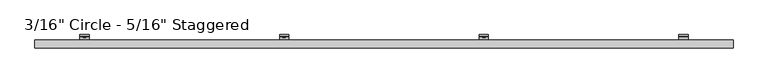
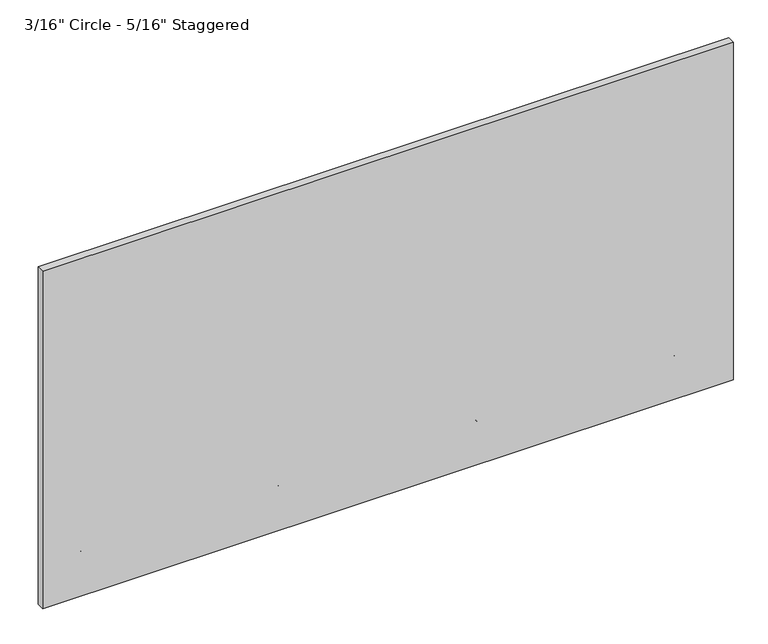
"""IFC4 building model written with IfcOpenShell, lengths in millimetres: plate geometry."""

from ifc_helpers import new_model, si_unit, point, frame, frame_2d, origin, place, context, project, spatial, polyline, circle_curve, trimmed, segment, composite_curve, outline, extrude, source, transform, mapped, element, save
from ifc_brep_helpers import plane_surface, cylinder_surface, revolved_surface, advanced_brep


def plate_cb0a7364(model_context):
    return source(origin(), model_context, "Body", "SolidModel", [
        advanced_brep(
        [(1209.675, -47.625, 561.2468868), (1209.675, -51.2819443, 553.5848544), (1209.675, -89.5163624, 526.8128266), (1209.675, -92.9330442, 530.2295084), (1209.675, -54.3526876, 557.2437649), (1209.675, -52.4002, 561.2469577), (1209.675, -52.4002, 595.439572), (1209.675, -47.625, 595.439572), (1247.775, -47.625, 561.2468868), (1247.775, -47.625, 595.439572), (1247.775, -52.4002, 595.439572), (1247.775, -52.4002, 561.2469577), (1247.775, -54.3526876, 557.2437649), (1247.775, -92.9330442, 530.2295084), (1247.775, -89.5163624, 526.8128266), (1247.775, -51.2819443, 553.5848544), (1235.4661889, -52.4002, 581.3943558), (1235.4661889, -52.4002, 575.0443558), (1219.2383287, -52.4002, 575.0443558), (1219.2383287, -52.4002, 581.3943558), (1235.4661889, -47.625, 575.0443558), (1235.4661889, -47.625, 581.3943558), (1219.2383287, -47.625, 581.3943558), (1219.2383287, -47.625, 575.0443558)],
        [
            (0, 1, circle_curve(frame((1209.675, -57.4802202, 561.2468868), z_axis=(-1.0, 0.0, 0.0), x_axis=(0.0, -1.0, 0.0)), 9.8552202)),
            (1, 2),
            (2, 3),
            (3, 4),
            (4, 5, circle_curve(frame((1209.675, -57.4803246, 561.2469577), z_axis=(1.0, 0.0, 0.0), x_axis=(0.0, -1.0, 0.0)), 5.0801246)),
            (5, 6),
            (6, 7),
            (7, 0),
            (8, 9),
            (9, 10),
            (10, 11),
            (11, 12, circle_curve(frame((1247.775, -57.4803246, 561.2469577), z_axis=(-1.0, 0.0, 0.0), x_axis=(0.0, -1.0, 0.0)), 5.0801246)),
            (12, 13),
            (13, 14),
            (14, 15),
            (15, 8, circle_curve(frame((1247.775, -57.4802202, 561.2468868), z_axis=(1.0, 0.0, 0.0), x_axis=(0.0, -1.0, 0.0)), 9.8552202)),
            (4, 12),
            (11, 5),
            (10, 6),
            (16, 17, circle_curve(frame((1235.4661889, -52.4002, 578.2193558), z_axis=(0.0, 1.0, 0.0), x_axis=(0.0, 0.0, -1.0)), 3.175)),
            (17, 18),
            (18, 19, circle_curve(frame((1219.2383287, -52.4002, 578.2193558), z_axis=(0.0, 1.0, 0.0), x_axis=(0.0, 0.0, -1.0)), 3.175)),
            (19, 16),
            (9, 7),
            (8, 0),
            (20, 21, circle_curve(frame((1235.4661889, -47.625, 578.2193558), z_axis=(0.0, -1.0, 0.0), x_axis=(0.0, 0.0, -1.0)), 3.175)),
            (21, 22),
            (22, 23, circle_curve(frame((1219.2383287, -47.625, 578.2193558), z_axis=(0.0, -1.0, 0.0), x_axis=(0.0, 0.0, -1.0)), 3.175)),
            (23, 20),
            (15, 1),
            (20, 17),
            (16, 21),
            (19, 22),
            (18, 23),
            (14, 2),
            (13, 3),
        ],
        [
            plane_surface(frame((1209.675, -67.3354404, 561.2468868), z_axis=(-1.0, 0.0, 0.0), x_axis=(0.0, 0.0, 1.0))),
            plane_surface(frame((1247.775, -67.3354404, 561.2468868), z_axis=(1.0, 0.0, 0.0), x_axis=(0.0, 0.0, -1.0))),
            revolved_surface(polyline([(1247.775, -62.5604492, 561.2469577), (1209.675, -62.5604492, 561.2469577)]), (1247.775, -57.4803246, 561.2469577), (1.0, 0.0, 0.0)),
            plane_surface(frame((1209.675, -52.4002, 561.2469577), z_axis=(0.0, -1.0, 0.0), x_axis=(1.0, 0.0, 0.0))),
            plane_surface(frame((1209.675, -52.4002, 595.439572), z_axis=(0.0, 0.0, 1.0), x_axis=(1.0, 0.0, 0.0))),
            plane_surface(frame((1209.675, -47.625, 595.439572), z_axis=(0.0, 1.0, 6.99569853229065e-12), x_axis=(1.0, 0.0, 0.0))),
            cylinder_surface(frame((1247.775, -57.4802202, 561.2468868), z_axis=(-1.0, 0.0, 0.0), x_axis=(0.0, -1.0, 0.0)), 9.8552202),
            revolved_surface(polyline([(1235.4661889, -52.4002, 575.0443558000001), (1235.4661889, -47.625, 575.0443558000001)]), (1235.4661889, -25.6669948, 578.2193558), (0.0, -1.0, 0.0)),
            plane_surface(frame((1235.4661889, -86.677982, 581.3943558), z_axis=(0.0, 0.0, -1.0), x_axis=(0.0, 1.0, 0.0))),
            revolved_surface(polyline([(1219.2383287, -52.4002, 575.0443558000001), (1219.2383287, -47.625, 575.0443558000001)]), (1219.2383287, -25.6669948, 578.2193558), (0.0, -1.0, 0.0)),
            plane_surface(frame((1219.2383287, -86.677982, 575.0443558), z_axis=(-2.7237733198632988e-11, 0.0, 1.0), x_axis=(0.0, 1.0, 0.0))),
            plane_surface(frame((1209.675, -51.2819443, 553.5848544), z_axis=(0.0, 0.5735764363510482, -0.8191520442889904), x_axis=(1.0, 0.0, 0.0))),
            plane_surface(frame((1209.675, -89.5163624, 526.8128266), z_axis=(0.0, -0.7071067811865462, -0.7071067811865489), x_axis=(1.0, 0.0, 0.0))),
            plane_surface(frame((1209.675, -92.9330442, 530.2295084), z_axis=(0.0, -0.5735764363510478, 0.8191520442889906), x_axis=(1.0, 0.0, 0.0))),
        ],
        [
            (0, [[1, 2, 3, 4, 5, 6, 7, 8]]),
            (1, [[9, 10, 11, 12, 13, 14, 15, 16]]),
            (2, [[-5, 17, -12, 18]]),
            (3, [[-6, -18, -11, 19], [20, 21, 22, 23]]),
            (4, [[-7, -19, -10, 24]]),
            (5, [[-8, -24, -9, 25], [26, 27, 28, 29]]),
            (6, [[-1, -25, -16, 30]]),
            (7, [[31, -20, 32, -26]]),
            (8, [[-32, -23, 33, -27]]),
            (9, [[-33, -22, 34, -28]]),
            (10, [[-31, -29, -34, -21]]),
            (11, [[-2, -30, -15, 35]]),
            (12, [[-3, -35, -14, 36]]),
            (13, [[-4, -36, -13, -17]]),
        ],
    ),
        extrude(outline(polyline([(578.3961989, 404.5570034), (574.0504864, 407.0660017), (574.0504864, 412.0839983), (578.3961989, 414.5929966), (582.7419114, 412.0839983), (582.7419114, 407.0660017), (578.3961989, 404.5570034)])), frame((0.0, -58.7607779, 0.0), z_axis=(0.0, 1.0, 0.0), x_axis=(0.0, 0.0, 1.0)), (0.0, 0.0, 1.0), 11.1357779),
        extrude(outline(composite_curve([segment(trimmed(circle_curve(frame_2d((578.4895059, 409.575)), 6.35), [point((578.4895059, 415.925))], [point((578.4895059, 403.225))], False, "CARTESIAN"), True, "CONTINUOUS"), segment(trimmed(circle_curve(frame_2d((578.4895059, 409.575)), 6.35), [point((578.4895059, 403.225))], [point((578.4895059, 415.925))], False, "CARTESIAN"), True, "CONTINUOUS")], self_intersect=False)), frame((0.0, -57.0817743, 0.0), z_axis=(0.0, 1.0, 0.0), x_axis=(0.0, 0.0, 1.0)), (0.0, 0.0, 1.0), 9.4567743),
        advanced_brep(
        [(390.525, -47.625, 561.2468868), (390.525, -51.2819443, 553.5848544), (390.525, -89.5163624, 526.8128266), (390.525, -92.9330442, 530.2295084), (390.525, -54.3526876, 557.2437649), (390.525, -52.4002, 561.2469577), (390.525, -52.4002, 595.439572), (390.525, -47.625, 595.439572), (428.625, -47.625, 561.2468868), (428.625, -47.625, 595.439572), (428.625, -52.4002, 595.439572), (428.625, -52.4002, 561.2469577), (428.625, -54.3526876, 557.2437649), (428.625, -92.9330442, 530.2295084), (428.625, -89.5163624, 526.8128266), (428.625, -51.2819443, 553.5848544), (416.3161889, -52.4002, 581.3943558), (416.3161889, -52.4002, 575.0443558), (400.0883287, -52.4002, 575.0443558), (400.0883287, -52.4002, 581.3943558), (416.3161889, -47.625, 575.0443558), (416.3161889, -47.625, 581.3943558), (400.0883287, -47.625, 581.3943558), (400.0883287, -47.625, 575.0443558)],
        [
            (0, 1, circle_curve(frame((390.525, -57.4802202, 561.2468868), z_axis=(-1.0, 0.0, 0.0), x_axis=(0.0, -1.0, 0.0)), 9.8552202)),
            (1, 2),
            (2, 3),
            (3, 4),
            (4, 5, circle_curve(frame((390.525, -57.4803246, 561.2469577), z_axis=(1.0, 0.0, 0.0), x_axis=(0.0, -1.0, 0.0)), 5.0801246)),
            (5, 6),
            (6, 7),
            (7, 0),
            (8, 9),
            (9, 10),
            (10, 11),
            (11, 12, circle_curve(frame((428.625, -57.4803246, 561.2469577), z_axis=(-1.0, 0.0, 0.0), x_axis=(0.0, -1.0, 0.0)), 5.0801246)),
            (12, 13),
            (13, 14),
            (14, 15),
            (15, 8, circle_curve(frame((428.625, -57.4802202, 561.2468868), z_axis=(1.0, 0.0, 0.0), x_axis=(0.0, -1.0, 0.0)), 9.8552202)),
            (4, 12),
            (11, 5),
            (10, 6),
            (16, 17, circle_curve(frame((416.3161889, -52.4002, 578.2193558), z_axis=(0.0, 1.0, 0.0), x_axis=(0.0, 0.0, -1.0)), 3.175)),
            (17, 18),
            (18, 19, circle_curve(frame((400.0883287, -52.4002, 578.2193558), z_axis=(0.0, 1.0, 0.0), x_axis=(0.0, 0.0, -1.0)), 3.175)),
            (19, 16),
            (9, 7),
            (8, 0),
            (20, 21, circle_curve(frame((416.3161889, -47.625, 578.2193558), z_axis=(0.0, -1.0, 0.0), x_axis=(0.0, 0.0, -1.0)), 3.175)),
            (21, 22),
            (22, 23, circle_curve(frame((400.0883287, -47.625, 578.2193558), z_axis=(0.0, -1.0, 0.0), x_axis=(0.0, 0.0, -1.0)), 3.175)),
            (23, 20),
            (15, 1),
            (20, 17),
            (16, 21),
            (19, 22),
            (18, 23),
            (14, 2),
            (13, 3),
        ],
        [
            plane_surface(frame((390.525, -67.3354404, 561.2468868), z_axis=(-1.0, 0.0, 0.0), x_axis=(0.0, 0.0, 1.0))),
            plane_surface(frame((428.625, -67.3354404, 561.2468868), z_axis=(1.0, 0.0, 0.0), x_axis=(0.0, 0.0, -1.0))),
            revolved_surface(polyline([(428.625, -62.5604492, 561.2469577), (390.525, -62.5604492, 561.2469577)]), (428.625, -57.4803246, 561.2469577), (1.0, 0.0, 0.0)),
            plane_surface(frame((390.525, -52.4002, 561.2469577), z_axis=(0.0, -1.0, 0.0), x_axis=(1.0, 0.0, 0.0))),
            plane_surface(frame((390.525, -52.4002, 595.439572), z_axis=(0.0, 0.0, 1.0), x_axis=(1.0, 0.0, 0.0))),
            plane_surface(frame((390.525, -47.625, 595.439572), z_axis=(0.0, 1.0, 6.99569853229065e-12), x_axis=(1.0, 0.0, 0.0))),
            cylinder_surface(frame((428.625, -57.4802202, 561.2468868), z_axis=(-1.0, 0.0, 0.0), x_axis=(0.0, -1.0, 0.0)), 9.8552202),
            revolved_surface(polyline([(416.3161889, -52.4002, 575.0443558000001), (416.3161889, -47.625, 575.0443558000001)]), (416.3161889, -25.6669948, 578.2193558), (0.0, -1.0, 0.0)),
            plane_surface(frame((416.3161889, -86.677982, 581.3943558), z_axis=(0.0, 0.0, -1.0), x_axis=(0.0, 1.0, 0.0))),
            revolved_surface(polyline([(400.0883287, -52.4002, 575.0443558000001), (400.0883287, -47.625, 575.0443558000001)]), (400.0883287, -25.6669948, 578.2193558), (0.0, -1.0, 0.0)),
            plane_surface(frame((400.0883287, -86.677982, 575.0443558), z_axis=(-2.7237733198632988e-11, 0.0, 1.0), x_axis=(0.0, 1.0, 0.0))),
            plane_surface(frame((390.525, -51.2819443, 553.5848544), z_axis=(0.0, 0.5735764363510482, -0.8191520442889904), x_axis=(1.0, 0.0, 0.0))),
            plane_surface(frame((390.525, -89.5163624, 526.8128266), z_axis=(0.0, -0.7071067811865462, -0.7071067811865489), x_axis=(1.0, 0.0, 0.0))),
            plane_surface(frame((390.525, -92.9330442, 530.2295084), z_axis=(0.0, -0.5735764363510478, 0.8191520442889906), x_axis=(1.0, 0.0, 0.0))),
        ],
        [
            (0, [[1, 2, 3, 4, 5, 6, 7, 8]]),
            (1, [[9, 10, 11, 12, 13, 14, 15, 16]]),
            (2, [[-5, 17, -12, 18]]),
            (3, [[-6, -18, -11, 19], [20, 21, 22, 23]]),
            (4, [[-7, -19, -10, 24]]),
            (5, [[-8, -24, -9, 25], [26, 27, 28, 29]]),
            (6, [[-1, -25, -16, 30]]),
            (7, [[31, -20, 32, -26]]),
            (8, [[-32, -23, 33, -27]]),
            (9, [[-33, -22, 34, -28]]),
            (10, [[-31, -29, -34, -21]]),
            (11, [[-2, -30, -15, 35]]),
            (12, [[-3, -35, -14, 36]]),
            (13, [[-4, -36, -13, -17]]),
        ],
    ),
        extrude(outline(polyline([(578.3961989, -414.5929966), (574.0504864, -412.0839983), (574.0504864, -407.0660017), (578.3961989, -404.5570034), (582.7419114, -407.0660017), (582.7419114, -412.0839983), (578.3961989, -414.5929966)])), frame((0.0, -58.7607779, 0.0), z_axis=(0.0, 1.0, 0.0), x_axis=(0.0, 0.0, 1.0)), (0.0, 0.0, 1.0), 11.1357779),
        extrude(outline(composite_curve([segment(trimmed(circle_curve(frame_2d((578.4895059, -409.575)), 6.35), [point((578.4895059, -403.225))], [point((578.4895059, -415.925))], False, "CARTESIAN"), True, "CONTINUOUS"), segment(trimmed(circle_curve(frame_2d((578.4895059, -409.575)), 6.35), [point((578.4895059, -415.925))], [point((578.4895059, -403.225))], False, "CARTESIAN"), True, "CONTINUOUS")], self_intersect=False)), frame((0.0, -57.0817743, 0.0), z_axis=(0.0, 1.0, 0.0), x_axis=(0.0, 0.0, 1.0)), (0.0, 0.0, 1.0), 9.4567743),
        advanced_brep(
        [(-428.625, -47.625, 561.2468868), (-428.625, -51.2819443, 553.5848544), (-428.625, -89.5163624, 526.8128266), (-428.625, -92.9330442, 530.2295084), (-428.625, -54.3526876, 557.2437649), (-428.625, -52.4002, 561.2469577), (-428.625, -52.4002, 595.439572), (-428.625, -47.625, 595.439572), (-390.525, -47.625, 561.2468868), (-390.525, -47.625, 595.439572), (-390.525, -52.4002, 595.439572), (-390.525, -52.4002, 561.2469577), (-390.525, -54.3526876, 557.2437649), (-390.525, -92.9330442, 530.2295084), (-390.525, -89.5163624, 526.8128266), (-390.525, -51.2819443, 553.5848544), (-402.8338111, -52.4002, 581.3943558), (-402.8338111, -52.4002, 575.0443558), (-419.0616713, -52.4002, 575.0443558), (-419.0616713, -52.4002, 581.3943558), (-402.8338111, -47.625, 575.0443558), (-402.8338111, -47.625, 581.3943558), (-419.0616713, -47.625, 581.3943558), (-419.0616713, -47.625, 575.0443558)],
        [
            (0, 1, circle_curve(frame((-428.625, -57.4802202, 561.2468868), z_axis=(-1.0, 0.0, 0.0), x_axis=(0.0, -1.0, 0.0)), 9.8552202)),
            (1, 2),
            (2, 3),
            (3, 4),
            (4, 5, circle_curve(frame((-428.625, -57.4803246, 561.2469577), z_axis=(1.0, 0.0, 0.0), x_axis=(0.0, -1.0, 0.0)), 5.0801246)),
            (5, 6),
            (6, 7),
            (7, 0),
            (8, 9),
            (9, 10),
            (10, 11),
            (11, 12, circle_curve(frame((-390.525, -57.4803246, 561.2469577), z_axis=(-1.0, 0.0, 0.0), x_axis=(0.0, -1.0, 0.0)), 5.0801246)),
            (12, 13),
            (13, 14),
            (14, 15),
            (15, 8, circle_curve(frame((-390.525, -57.4802202, 561.2468868), z_axis=(1.0, 0.0, 0.0), x_axis=(0.0, -1.0, 0.0)), 9.8552202)),
            (4, 12),
            (11, 5),
            (10, 6),
            (16, 17, circle_curve(frame((-402.8338111, -52.4002, 578.2193558), z_axis=(0.0, 1.0, 0.0), x_axis=(0.0, 0.0, -1.0)), 3.175)),
            (17, 18),
            (18, 19, circle_curve(frame((-419.0616713, -52.4002, 578.2193558), z_axis=(0.0, 1.0, 0.0), x_axis=(0.0, 0.0, -1.0)), 3.175)),
            (19, 16),
            (9, 7),
            (8, 0),
            (20, 21, circle_curve(frame((-402.8338111, -47.625, 578.2193558), z_axis=(0.0, -1.0, 0.0), x_axis=(0.0, 0.0, -1.0)), 3.175)),
            (21, 22),
            (22, 23, circle_curve(frame((-419.0616713, -47.625, 578.2193558), z_axis=(0.0, -1.0, 0.0), x_axis=(0.0, 0.0, -1.0)), 3.175)),
            (23, 20),
            (15, 1),
            (20, 17),
            (16, 21),
            (19, 22),
            (18, 23),
            (14, 2),
            (13, 3),
        ],
        [
            plane_surface(frame((-428.625, -67.3354404, 561.2468868), z_axis=(-1.0, 0.0, 0.0), x_axis=(0.0, 0.0, 1.0))),
            plane_surface(frame((-390.525, -67.3354404, 561.2468868), z_axis=(1.0, 0.0, 0.0), x_axis=(0.0, 0.0, -1.0))),
            revolved_surface(polyline([(-390.525, -62.5604492, 561.2469577), (-428.625, -62.5604492, 561.2469577)]), (-390.525, -57.4803246, 561.2469577), (1.0, 0.0, 0.0)),
            plane_surface(frame((-428.625, -52.4002, 561.2469577), z_axis=(0.0, -1.0, 0.0), x_axis=(1.0, 0.0, 0.0))),
            plane_surface(frame((-428.625, -52.4002, 595.439572), z_axis=(0.0, 0.0, 1.0), x_axis=(1.0, 0.0, 0.0))),
            plane_surface(frame((-428.625, -47.625, 595.439572), z_axis=(0.0, 1.0, 6.99569853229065e-12), x_axis=(1.0, 0.0, 0.0))),
            cylinder_surface(frame((-390.525, -57.4802202, 561.2468868), z_axis=(-1.0, 0.0, 0.0), x_axis=(0.0, -1.0, 0.0)), 9.8552202),
            revolved_surface(polyline([(-402.8338111, -52.4002, 575.0443558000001), (-402.8338111, -47.625, 575.0443558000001)]), (-402.8338111, -25.6669948, 578.2193558), (0.0, -1.0, 0.0)),
            plane_surface(frame((-402.8338111, -86.677982, 581.3943558), z_axis=(0.0, 0.0, -1.0), x_axis=(0.0, 1.0, 0.0))),
            revolved_surface(polyline([(-419.0616713, -52.4002, 575.0443558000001), (-419.0616713, -47.625, 575.0443558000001)]), (-419.0616713, -25.6669948, 578.2193558), (0.0, -1.0, 0.0)),
            plane_surface(frame((-419.0616713, -86.677982, 575.0443558), z_axis=(-2.7237733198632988e-11, 0.0, 1.0), x_axis=(0.0, 1.0, 0.0))),
            plane_surface(frame((-428.625, -51.2819443, 553.5848544), z_axis=(0.0, 0.5735764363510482, -0.8191520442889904), x_axis=(1.0, 0.0, 0.0))),
            plane_surface(frame((-428.625, -89.5163624, 526.8128266), z_axis=(0.0, -0.7071067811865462, -0.7071067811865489), x_axis=(1.0, 0.0, 0.0))),
            plane_surface(frame((-428.625, -92.9330442, 530.2295084), z_axis=(0.0, -0.5735764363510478, 0.8191520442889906), x_axis=(1.0, 0.0, 0.0))),
        ],
        [
            (0, [[1, 2, 3, 4, 5, 6, 7, 8]]),
            (1, [[9, 10, 11, 12, 13, 14, 15, 16]]),
            (2, [[-5, 17, -12, 18]]),
            (3, [[-6, -18, -11, 19], [20, 21, 22, 23]]),
            (4, [[-7, -19, -10, 24]]),
            (5, [[-8, -24, -9, 25], [26, 27, 28, 29]]),
            (6, [[-1, -25, -16, 30]]),
            (7, [[31, -20, 32, -26]]),
            (8, [[-32, -23, 33, -27]]),
            (9, [[-33, -22, 34, -28]]),
            (10, [[-31, -29, -34, -21]]),
            (11, [[-2, -30, -15, 35]]),
            (12, [[-3, -35, -14, 36]]),
            (13, [[-4, -36, -13, -17]]),
        ],
    ),
        extrude(outline(polyline([(578.3961989, -1233.7429966), (574.0504864, -1231.2339983), (574.0504864, -1226.2160017), (578.3961989, -1223.7070034), (582.7419114, -1226.2160017), (582.7419114, -1231.2339983), (578.3961989, -1233.7429966)])), frame((0.0, -58.7607779, 0.0), z_axis=(0.0, 1.0, 0.0), x_axis=(0.0, 0.0, 1.0)), (0.0, 0.0, 1.0), 11.1357779),
        extrude(outline(composite_curve([segment(trimmed(circle_curve(frame_2d((578.4895059, -1228.725)), 6.35), [point((578.4895059, -1222.375))], [point((578.4895059, -1235.075))], False, "CARTESIAN"), True, "CONTINUOUS"), segment(trimmed(circle_curve(frame_2d((578.4895059, -1228.725)), 6.35), [point((578.4895059, -1235.075))], [point((578.4895059, -1222.375))], False, "CARTESIAN"), True, "CONTINUOUS")], self_intersect=False)), frame((0.0, -57.0817743, 0.0), z_axis=(0.0, 1.0, 0.0), x_axis=(0.0, 0.0, 1.0)), (0.0, 0.0, 1.0), 9.4567743),
        advanced_brep(
        [(-1247.775, -47.625, 561.2468868), (-1247.775, -51.2819443, 553.5848544), (-1247.775, -89.5163624, 526.8128266), (-1247.775, -92.9330442, 530.2295084), (-1247.775, -54.3526876, 557.2437649), (-1247.775, -52.4002, 561.2469577), (-1247.775, -52.4002, 595.439572), (-1247.775, -47.625, 595.439572), (-1209.675, -47.625, 561.2468868), (-1209.675, -47.625, 595.439572), (-1209.675, -52.4002, 595.439572), (-1209.675, -52.4002, 561.2469577), (-1209.675, -54.3526876, 557.2437649), (-1209.675, -92.9330442, 530.2295084), (-1209.675, -89.5163624, 526.8128266), (-1209.675, -51.2819443, 553.5848544), (-1221.9838111, -52.4002, 581.3943558), (-1221.9838111, -52.4002, 575.0443558), (-1238.2116713, -52.4002, 575.0443558), (-1238.2116713, -52.4002, 581.3943558), (-1221.9838111, -47.625, 575.0443558), (-1221.9838111, -47.625, 581.3943558), (-1238.2116713, -47.625, 581.3943558), (-1238.2116713, -47.625, 575.0443558)],
        [
            (0, 1, circle_curve(frame((-1247.775, -57.4802202, 561.2468868), z_axis=(-1.0, 0.0, 0.0), x_axis=(0.0, -1.0, 0.0)), 9.8552202)),
            (1, 2),
            (2, 3),
            (3, 4),
            (4, 5, circle_curve(frame((-1247.775, -57.4803246, 561.2469577), z_axis=(1.0, 0.0, 0.0), x_axis=(0.0, -1.0, 0.0)), 5.0801246)),
            (5, 6),
            (6, 7),
            (7, 0),
            (8, 9),
            (9, 10),
            (10, 11),
            (11, 12, circle_curve(frame((-1209.675, -57.4803246, 561.2469577), z_axis=(-1.0, 0.0, 0.0), x_axis=(0.0, -1.0, 0.0)), 5.0801246)),
            (12, 13),
            (13, 14),
            (14, 15),
            (15, 8, circle_curve(frame((-1209.675, -57.4802202, 561.2468868), z_axis=(1.0, 0.0, 0.0), x_axis=(0.0, -1.0, 0.0)), 9.8552202)),
            (4, 12),
            (11, 5),
            (10, 6),
            (16, 17, circle_curve(frame((-1221.9838111, -52.4002, 578.2193558), z_axis=(0.0, 1.0, 0.0), x_axis=(0.0, 0.0, -1.0)), 3.175)),
            (17, 18),
            (18, 19, circle_curve(frame((-1238.2116713, -52.4002, 578.2193558), z_axis=(0.0, 1.0, 0.0), x_axis=(0.0, 0.0, -1.0)), 3.175)),
            (19, 16),
            (9, 7),
            (8, 0),
            (20, 21, circle_curve(frame((-1221.9838111, -47.625, 578.2193558), z_axis=(0.0, -1.0, 0.0), x_axis=(0.0, 0.0, -1.0)), 3.175)),
            (21, 22),
            (22, 23, circle_curve(frame((-1238.2116713, -47.625, 578.2193558), z_axis=(0.0, -1.0, 0.0), x_axis=(0.0, 0.0, -1.0)), 3.175)),
            (23, 20),
            (15, 1),
            (20, 17),
            (16, 21),
            (19, 22),
            (18, 23),
            (14, 2),
            (13, 3),
        ],
        [
            plane_surface(frame((-1247.775, -67.3354404, 561.2468868), z_axis=(-1.0, 0.0, 0.0), x_axis=(0.0, 0.0, 1.0))),
            plane_surface(frame((-1209.675, -67.3354404, 561.2468868), z_axis=(1.0, 0.0, 0.0), x_axis=(0.0, 0.0, -1.0))),
            revolved_surface(polyline([(-1209.675, -62.5604492, 561.2469577), (-1247.775, -62.5604492, 561.2469577)]), (-1209.675, -57.4803246, 561.2469577), (1.0, 0.0, 0.0)),
            plane_surface(frame((-1247.775, -52.4002, 561.2469577), z_axis=(0.0, -1.0, 0.0), x_axis=(1.0, 0.0, 0.0))),
            plane_surface(frame((-1247.775, -52.4002, 595.439572), z_axis=(0.0, 0.0, 1.0), x_axis=(1.0, 0.0, 0.0))),
            plane_surface(frame((-1247.775, -47.625, 595.439572), z_axis=(0.0, 1.0, 6.99569853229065e-12), x_axis=(1.0, 0.0, 0.0))),
            cylinder_surface(frame((-1209.675, -57.4802202, 561.2468868), z_axis=(-1.0, 0.0, 0.0), x_axis=(0.0, -1.0, 0.0)), 9.8552202),
            revolved_surface(polyline([(-1221.9838111, -52.4002, 575.0443558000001), (-1221.9838111, -47.625, 575.0443558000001)]), (-1221.9838111, -25.6669948, 578.2193558), (0.0, -1.0, 0.0)),
            plane_surface(frame((-1221.9838111, -86.677982, 581.3943558), z_axis=(0.0, 0.0, -1.0), x_axis=(0.0, 1.0, 0.0))),
            revolved_surface(polyline([(-1238.2116713, -52.4002, 575.0443558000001), (-1238.2116713, -47.625, 575.0443558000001)]), (-1238.2116713, -25.6669948, 578.2193558), (0.0, -1.0, 0.0)),
            plane_surface(frame((-1238.2116713, -86.677982, 575.0443558), z_axis=(-2.7237733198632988e-11, 0.0, 1.0), x_axis=(0.0, 1.0, 0.0))),
            plane_surface(frame((-1247.775, -51.2819443, 553.5848544), z_axis=(0.0, 0.5735764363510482, -0.8191520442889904), x_axis=(1.0, 0.0, 0.0))),
            plane_surface(frame((-1247.775, -89.5163624, 526.8128266), z_axis=(0.0, -0.7071067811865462, -0.7071067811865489), x_axis=(1.0, 0.0, 0.0))),
            plane_surface(frame((-1247.775, -92.9330442, 530.2295084), z_axis=(0.0, -0.5735764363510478, 0.8191520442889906), x_axis=(1.0, 0.0, 0.0))),
        ],
        [
            (0, [[1, 2, 3, 4, 5, 6, 7, 8]]),
            (1, [[9, 10, 11, 12, 13, 14, 15, 16]]),
            (2, [[-5, 17, -12, 18]]),
            (3, [[-6, -18, -11, 19], [20, 21, 22, 23]]),
            (4, [[-7, -19, -10, 24]]),
            (5, [[-8, -24, -9, 25], [26, 27, 28, 29]]),
            (6, [[-1, -25, -16, 30]]),
            (7, [[31, -20, 32, -26]]),
            (8, [[-32, -23, 33, -27]]),
            (9, [[-33, -22, 34, -28]]),
            (10, [[-31, -29, -34, -21]]),
            (11, [[-2, -30, -15, 35]]),
            (12, [[-3, -35, -14, 36]]),
            (13, [[-4, -36, -13, -17]]),
        ],
    ),
        extrude(outline(polyline([(169.8795323, 1223.7070034), (165.5338197, 1226.2160017), (165.5338197, 1231.2339983), (169.8795323, 1233.7429966), (174.2252448, 1231.2339983), (174.2252448, 1226.2160017), (169.8795323, 1223.7070034)])), frame((0.0, -58.7607779, 0.0), z_axis=(0.0, 1.0, 0.0), x_axis=(0.0, 0.0, 1.0)), (0.0, 0.0, 1.0), 11.1357779),
        extrude(outline(composite_curve([segment(trimmed(circle_curve(frame_2d((169.9728392, 1228.725)), 6.35), [point((169.9728392, 1235.075))], [point((169.9728392, 1222.375))], False, "CARTESIAN"), True, "CONTINUOUS"), segment(trimmed(circle_curve(frame_2d((169.9728392, 1228.725)), 6.35), [point((169.9728392, 1222.375))], [point((169.9728392, 1235.075))], False, "CARTESIAN"), True, "CONTINUOUS")], self_intersect=False)), frame((0.0, -57.0817743, 0.0), z_axis=(0.0, 1.0, 0.0), x_axis=(0.0, 0.0, 1.0)), (0.0, 0.0, 1.0), 9.4567743),
        advanced_brep(
        [(1209.675, -47.625, 152.7302202), (1209.675, -51.2819443, 145.0681877), (1209.675, -89.5163624, 118.29616), (1209.675, -92.9330442, 121.7128418), (1209.675, -54.3526876, 148.7270983), (1209.675, -52.4002, 152.7302911), (1209.675, -52.4002, 186.9229053), (1209.675, -47.625, 186.9229053), (1247.775, -47.625, 152.7302202), (1247.775, -47.625, 186.9229053), (1247.775, -52.4002, 186.9229053), (1247.775, -52.4002, 152.7302911), (1247.775, -54.3526876, 148.7270983), (1247.775, -92.9330442, 121.7128418), (1247.775, -89.5163624, 118.29616), (1247.775, -51.2819443, 145.0681877), (1235.4661889, -52.4002, 172.8776891), (1235.4661889, -52.4002, 166.5276891), (1219.2383287, -52.4002, 166.5276891), (1219.2383287, -52.4002, 172.8776891), (1235.4661889, -47.625, 166.5276891), (1235.4661889, -47.625, 172.8776891), (1219.2383287, -47.625, 172.8776891), (1219.2383287, -47.625, 166.5276891)],
        [
            (0, 1, circle_curve(frame((1209.675, -57.4802202, 152.7302202), z_axis=(-1.0, 0.0, 0.0), x_axis=(0.0, -1.0, 0.0)), 9.8552202)),
            (1, 2),
            (2, 3),
            (3, 4),
            (4, 5, circle_curve(frame((1209.675, -57.4803246, 152.7302911), z_axis=(1.0, 0.0, 0.0), x_axis=(0.0, -1.0, 0.0)), 5.0801246)),
            (5, 6),
            (6, 7),
            (7, 0),
            (8, 9),
            (9, 10),
            (10, 11),
            (11, 12, circle_curve(frame((1247.775, -57.4803246, 152.7302911), z_axis=(-1.0, 0.0, 0.0), x_axis=(0.0, -1.0, 0.0)), 5.0801246)),
            (12, 13),
            (13, 14),
            (14, 15),
            (15, 8, circle_curve(frame((1247.775, -57.4802202, 152.7302202), z_axis=(1.0, 0.0, 0.0), x_axis=(0.0, -1.0, 0.0)), 9.8552202)),
            (4, 12),
            (11, 5),
            (10, 6),
            (16, 17, circle_curve(frame((1235.4661889, -52.4002, 169.7026891), z_axis=(0.0, 1.0, 0.0), x_axis=(0.0, 0.0, -1.0)), 3.175)),
            (17, 18),
            (18, 19, circle_curve(frame((1219.2383287, -52.4002, 169.7026891), z_axis=(0.0, 1.0, 0.0), x_axis=(0.0, 0.0, -1.0)), 3.175)),
            (19, 16),
            (9, 7),
            (8, 0),
            (20, 21, circle_curve(frame((1235.4661889, -47.625, 169.7026891), z_axis=(0.0, -1.0, 0.0), x_axis=(0.0, 0.0, -1.0)), 3.175)),
            (21, 22),
            (22, 23, circle_curve(frame((1219.2383287, -47.625, 169.7026891), z_axis=(0.0, -1.0, 0.0), x_axis=(0.0, 0.0, -1.0)), 3.175)),
            (23, 20),
            (15, 1),
            (20, 17),
            (16, 21),
            (19, 22),
            (18, 23),
            (14, 2),
            (13, 3),
        ],
        [
            plane_surface(frame((1209.675, -67.3354404, 152.7302202), z_axis=(-1.0, 0.0, 0.0), x_axis=(0.0, 0.0, 1.0))),
            plane_surface(frame((1247.775, -67.3354404, 152.7302202), z_axis=(1.0, 0.0, 0.0), x_axis=(0.0, 0.0, -1.0))),
            revolved_surface(polyline([(1247.775, -62.5604492, 152.7302911), (1209.675, -62.5604492, 152.7302911)]), (1247.775, -57.4803246, 152.7302911), (1.0, 0.0, 0.0)),
            plane_surface(frame((1209.675, -52.4002, 152.7302911), z_axis=(0.0, -1.0, 0.0), x_axis=(1.0, 0.0, 0.0))),
            plane_surface(frame((1209.675, -52.4002, 186.9229053), z_axis=(0.0, 0.0, 1.0), x_axis=(1.0, 0.0, 0.0))),
            plane_surface(frame((1209.675, -47.625, 186.9229053), z_axis=(0.0, 1.0, 6.99569853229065e-12), x_axis=(1.0, 0.0, 0.0))),
            cylinder_surface(frame((1247.775, -57.4802202, 152.7302202), z_axis=(-1.0, 0.0, 0.0), x_axis=(0.0, -1.0, 0.0)), 9.8552202),
            revolved_surface(polyline([(1235.4661889, -52.4002, 166.52768909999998), (1235.4661889, -47.625, 166.52768909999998)]), (1235.4661889, -25.6669948, 169.7026891), (0.0, -1.0, 0.0)),
            plane_surface(frame((1235.4661889, -86.677982, 172.8776891), z_axis=(0.0, 0.0, -1.0), x_axis=(0.0, 1.0, 0.0))),
            revolved_surface(polyline([(1219.2383287, -52.4002, 166.52768909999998), (1219.2383287, -47.625, 166.52768909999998)]), (1219.2383287, -25.6669948, 169.7026891), (0.0, -1.0, 0.0)),
            plane_surface(frame((1219.2383287, -86.677982, 166.5276891), z_axis=(-2.723774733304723e-11, 0.0, 1.0), x_axis=(0.0, 1.0, 0.0))),
            plane_surface(frame((1209.675, -51.2819443, 145.0681877), z_axis=(0.0, 0.5735764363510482, -0.8191520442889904), x_axis=(1.0, 0.0, 0.0))),
            plane_surface(frame((1209.675, -89.5163624, 118.29616), z_axis=(0.0, -0.7071067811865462, -0.7071067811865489), x_axis=(1.0, 0.0, 0.0))),
            plane_surface(frame((1209.675, -92.9330442, 121.7128418), z_axis=(0.0, -0.5735764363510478, 0.8191520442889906), x_axis=(1.0, 0.0, 0.0))),
        ],
        [
            (0, [[1, 2, 3, 4, 5, 6, 7, 8]]),
            (1, [[9, 10, 11, 12, 13, 14, 15, 16]]),
            (2, [[-5, 17, -12, 18]]),
            (3, [[-6, -18, -11, 19], [20, 21, 22, 23]]),
            (4, [[-7, -19, -10, 24]]),
            (5, [[-8, -24, -9, 25], [26, 27, 28, 29]]),
            (6, [[-1, -25, -16, 30]]),
            (7, [[31, -20, 32, -26]]),
            (8, [[-32, -23, 33, -27]]),
            (9, [[-33, -22, 34, -28]]),
            (10, [[-31, -29, -34, -21]]),
            (11, [[-2, -30, -15, 35]]),
            (12, [[-3, -35, -14, 36]]),
            (13, [[-4, -36, -13, -17]]),
        ],
    ),
        extrude(outline(polyline([(169.8795323, 404.5570034), (165.5338197, 407.0660017), (165.5338197, 412.0839983), (169.8795323, 414.5929966), (174.2252448, 412.0839983), (174.2252448, 407.0660017), (169.8795323, 404.5570034)])), frame((0.0, -58.7607779, 0.0), z_axis=(0.0, 1.0, 0.0), x_axis=(0.0, 0.0, 1.0)), (0.0, 0.0, 1.0), 11.1357779),
        extrude(outline(composite_curve([segment(trimmed(circle_curve(frame_2d((169.9728392, 409.575)), 6.35), [point((169.9728392, 415.925))], [point((169.9728392, 403.225))], False, "CARTESIAN"), True, "CONTINUOUS"), segment(trimmed(circle_curve(frame_2d((169.9728392, 409.575)), 6.35), [point((169.9728392, 403.225))], [point((169.9728392, 415.925))], False, "CARTESIAN"), True, "CONTINUOUS")], self_intersect=False)), frame((0.0, -57.0817743, 0.0), z_axis=(0.0, 1.0, 0.0), x_axis=(0.0, 0.0, 1.0)), (0.0, 0.0, 1.0), 9.4567743),
        advanced_brep(
        [(390.525, -47.625, 152.7302202), (390.525, -51.2819443, 145.0681877), (390.525, -89.5163624, 118.29616), (390.525, -92.9330442, 121.7128418), (390.525, -54.3526876, 148.7270983), (390.525, -52.4002, 152.7302911), (390.525, -52.4002, 186.9229053), (390.525, -47.625, 186.9229053), (428.625, -47.625, 152.7302202), (428.625, -47.625, 186.9229053), (428.625, -52.4002, 186.9229053), (428.625, -52.4002, 152.7302911), (428.625, -54.3526876, 148.7270983), (428.625, -92.9330442, 121.7128418), (428.625, -89.5163624, 118.29616), (428.625, -51.2819443, 145.0681877), (416.3161889, -52.4002, 172.8776891), (416.3161889, -52.4002, 166.5276891), (400.0883287, -52.4002, 166.5276891), (400.0883287, -52.4002, 172.8776891), (416.3161889, -47.625, 166.5276891), (416.3161889, -47.625, 172.8776891), (400.0883287, -47.625, 172.8776891), (400.0883287, -47.625, 166.5276891)],
        [
            (0, 1, circle_curve(frame((390.525, -57.4802202, 152.7302202), z_axis=(-1.0, 0.0, 0.0), x_axis=(0.0, -1.0, 0.0)), 9.8552202)),
            (1, 2),
            (2, 3),
            (3, 4),
            (4, 5, circle_curve(frame((390.525, -57.4803246, 152.7302911), z_axis=(1.0, 0.0, 0.0), x_axis=(0.0, -1.0, 0.0)), 5.0801246)),
            (5, 6),
            (6, 7),
            (7, 0),
            (8, 9),
            (9, 10),
            (10, 11),
            (11, 12, circle_curve(frame((428.625, -57.4803246, 152.7302911), z_axis=(-1.0, 0.0, 0.0), x_axis=(0.0, -1.0, 0.0)), 5.0801246)),
            (12, 13),
            (13, 14),
            (14, 15),
            (15, 8, circle_curve(frame((428.625, -57.4802202, 152.7302202), z_axis=(1.0, 0.0, 0.0), x_axis=(0.0, -1.0, 0.0)), 9.8552202)),
            (4, 12),
            (11, 5),
            (10, 6),
            (16, 17, circle_curve(frame((416.3161889, -52.4002, 169.7026891), z_axis=(0.0, 1.0, 0.0), x_axis=(0.0, 0.0, -1.0)), 3.175)),
            (17, 18),
            (18, 19, circle_curve(frame((400.0883287, -52.4002, 169.7026891), z_axis=(0.0, 1.0, 0.0), x_axis=(0.0, 0.0, -1.0)), 3.175)),
            (19, 16),
            (9, 7),
            (8, 0),
            (20, 21, circle_curve(frame((416.3161889, -47.625, 169.7026891), z_axis=(0.0, -1.0, 0.0), x_axis=(0.0, 0.0, -1.0)), 3.175)),
            (21, 22),
            (22, 23, circle_curve(frame((400.0883287, -47.625, 169.7026891), z_axis=(0.0, -1.0, 0.0), x_axis=(0.0, 0.0, -1.0)), 3.175)),
            (23, 20),
            (15, 1),
            (20, 17),
            (16, 21),
            (19, 22),
            (18, 23),
            (14, 2),
            (13, 3),
        ],
        [
            plane_surface(frame((390.525, -67.3354404, 152.7302202), z_axis=(-1.0, 0.0, 0.0), x_axis=(0.0, 0.0, 1.0))),
            plane_surface(frame((428.625, -67.3354404, 152.7302202), z_axis=(1.0, 0.0, 0.0), x_axis=(0.0, 0.0, -1.0))),
            revolved_surface(polyline([(428.625, -62.5604492, 152.7302911), (390.525, -62.5604492, 152.7302911)]), (428.625, -57.4803246, 152.7302911), (1.0, 0.0, 0.0)),
            plane_surface(frame((390.525, -52.4002, 152.7302911), z_axis=(0.0, -1.0, 0.0), x_axis=(1.0, 0.0, 0.0))),
            plane_surface(frame((390.525, -52.4002, 186.9229053), z_axis=(0.0, 0.0, 1.0), x_axis=(1.0, 0.0, 0.0))),
            plane_surface(frame((390.525, -47.625, 186.9229053), z_axis=(0.0, 1.0, 6.99569853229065e-12), x_axis=(1.0, 0.0, 0.0))),
            cylinder_surface(frame((428.625, -57.4802202, 152.7302202), z_axis=(-1.0, 0.0, 0.0), x_axis=(0.0, -1.0, 0.0)), 9.8552202),
            revolved_surface(polyline([(416.3161889, -52.4002, 166.52768909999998), (416.3161889, -47.625, 166.52768909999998)]), (416.3161889, -25.6669948, 169.7026891), (0.0, -1.0, 0.0)),
            plane_surface(frame((416.3161889, -86.677982, 172.8776891), z_axis=(0.0, 0.0, -1.0), x_axis=(0.0, 1.0, 0.0))),
            revolved_surface(polyline([(400.0883287, -52.4002, 166.52768909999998), (400.0883287, -47.625, 166.52768909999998)]), (400.0883287, -25.6669948, 169.7026891), (0.0, -1.0, 0.0)),
            plane_surface(frame((400.0883287, -86.677982, 166.5276891), z_axis=(-2.723774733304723e-11, 0.0, 1.0), x_axis=(0.0, 1.0, 0.0))),
            plane_surface(frame((390.525, -51.2819443, 145.0681877), z_axis=(0.0, 0.5735764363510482, -0.8191520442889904), x_axis=(1.0, 0.0, 0.0))),
            plane_surface(frame((390.525, -89.5163624, 118.29616), z_axis=(0.0, -0.7071067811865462, -0.7071067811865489), x_axis=(1.0, 0.0, 0.0))),
            plane_surface(frame((390.525, -92.9330442, 121.7128418), z_axis=(0.0, -0.5735764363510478, 0.8191520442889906), x_axis=(1.0, 0.0, 0.0))),
        ],
        [
            (0, [[1, 2, 3, 4, 5, 6, 7, 8]]),
            (1, [[9, 10, 11, 12, 13, 14, 15, 16]]),
            (2, [[-5, 17, -12, 18]]),
            (3, [[-6, -18, -11, 19], [20, 21, 22, 23]]),
            (4, [[-7, -19, -10, 24]]),
            (5, [[-8, -24, -9, 25], [26, 27, 28, 29]]),
            (6, [[-1, -25, -16, 30]]),
            (7, [[31, -20, 32, -26]]),
            (8, [[-32, -23, 33, -27]]),
            (9, [[-33, -22, 34, -28]]),
            (10, [[-31, -29, -34, -21]]),
            (11, [[-2, -30, -15, 35]]),
            (12, [[-3, -35, -14, 36]]),
            (13, [[-4, -36, -13, -17]]),
        ],
    ),
        extrude(outline(polyline([(169.8795323, -414.5929966), (165.5338197, -412.0839983), (165.5338197, -407.0660017), (169.8795323, -404.5570034), (174.2252448, -407.0660017), (174.2252448, -412.0839983), (169.8795323, -414.5929966)])), frame((0.0, -58.7607779, 0.0), z_axis=(0.0, 1.0, 0.0), x_axis=(0.0, 0.0, 1.0)), (0.0, 0.0, 1.0), 11.1357779),
        extrude(outline(composite_curve([segment(trimmed(circle_curve(frame_2d((169.9728392, -409.575)), 6.35), [point((169.9728392, -403.225))], [point((169.9728392, -415.925))], False, "CARTESIAN"), True, "CONTINUOUS"), segment(trimmed(circle_curve(frame_2d((169.9728392, -409.575)), 6.35), [point((169.9728392, -415.925))], [point((169.9728392, -403.225))], False, "CARTESIAN"), True, "CONTINUOUS")], self_intersect=False)), frame((0.0, -57.0817743, 0.0), z_axis=(0.0, 1.0, 0.0), x_axis=(0.0, 0.0, 1.0)), (0.0, 0.0, 1.0), 9.4567743),
        advanced_brep(
        [(-428.625, -47.625, 152.7302202), (-428.625, -51.2819443, 145.0681877), (-428.625, -89.5163624, 118.29616), (-428.625, -92.9330442, 121.7128418), (-428.625, -54.3526876, 148.7270983), (-428.625, -52.4002, 152.7302911), (-428.625, -52.4002, 186.9229053), (-428.625, -47.625, 186.9229053), (-390.525, -47.625, 152.7302202), (-390.525, -47.625, 186.9229053), (-390.525, -52.4002, 186.9229053), (-390.525, -52.4002, 152.7302911), (-390.525, -54.3526876, 148.7270983), (-390.525, -92.9330442, 121.7128418), (-390.525, -89.5163624, 118.29616), (-390.525, -51.2819443, 145.0681877), (-402.8338111, -52.4002, 172.8776891), (-402.8338111, -52.4002, 166.5276891), (-419.0616713, -52.4002, 166.5276891), (-419.0616713, -52.4002, 172.8776891), (-402.8338111, -47.625, 166.5276891), (-402.8338111, -47.625, 172.8776891), (-419.0616713, -47.625, 172.8776891), (-419.0616713, -47.625, 166.5276891)],
        [
            (0, 1, circle_curve(frame((-428.625, -57.4802202, 152.7302202), z_axis=(-1.0, 0.0, 0.0), x_axis=(0.0, -1.0, 0.0)), 9.8552202)),
            (1, 2),
            (2, 3),
            (3, 4),
            (4, 5, circle_curve(frame((-428.625, -57.4803246, 152.7302911), z_axis=(1.0, 0.0, 0.0), x_axis=(0.0, -1.0, 0.0)), 5.0801246)),
            (5, 6),
            (6, 7),
            (7, 0),
            (8, 9),
            (9, 10),
            (10, 11),
            (11, 12, circle_curve(frame((-390.525, -57.4803246, 152.7302911), z_axis=(-1.0, 0.0, 0.0), x_axis=(0.0, -1.0, 0.0)), 5.0801246)),
            (12, 13),
            (13, 14),
            (14, 15),
            (15, 8, circle_curve(frame((-390.525, -57.4802202, 152.7302202), z_axis=(1.0, 0.0, 0.0), x_axis=(0.0, -1.0, 0.0)), 9.8552202)),
            (4, 12),
            (11, 5),
            (10, 6),
            (16, 17, circle_curve(frame((-402.8338111, -52.4002, 169.7026891), z_axis=(0.0, 1.0, 0.0), x_axis=(0.0, 0.0, -1.0)), 3.175)),
            (17, 18),
            (18, 19, circle_curve(frame((-419.0616713, -52.4002, 169.7026891), z_axis=(0.0, 1.0, 0.0), x_axis=(0.0, 0.0, -1.0)), 3.175)),
            (19, 16),
            (9, 7),
            (8, 0),
            (20, 21, circle_curve(frame((-402.8338111, -47.625, 169.7026891), z_axis=(0.0, -1.0, 0.0), x_axis=(0.0, 0.0, -1.0)), 3.175)),
            (21, 22),
            (22, 23, circle_curve(frame((-419.0616713, -47.625, 169.7026891), z_axis=(0.0, -1.0, 0.0), x_axis=(0.0, 0.0, -1.0)), 3.175)),
            (23, 20),
            (15, 1),
            (20, 17),
            (16, 21),
            (19, 22),
            (18, 23),
            (14, 2),
            (13, 3),
        ],
        [
            plane_surface(frame((-428.625, -67.3354404, 152.7302202), z_axis=(-1.0, 0.0, 0.0), x_axis=(0.0, 0.0, 1.0))),
            plane_surface(frame((-390.525, -67.3354404, 152.7302202), z_axis=(1.0, 0.0, 0.0), x_axis=(0.0, 0.0, -1.0))),
            revolved_surface(polyline([(-390.525, -62.5604492, 152.7302911), (-428.625, -62.5604492, 152.7302911)]), (-390.525, -57.4803246, 152.7302911), (1.0, 0.0, 0.0)),
            plane_surface(frame((-428.625, -52.4002, 152.7302911), z_axis=(0.0, -1.0, 0.0), x_axis=(1.0, 0.0, 0.0))),
            plane_surface(frame((-428.625, -52.4002, 186.9229053), z_axis=(0.0, 0.0, 1.0), x_axis=(1.0, 0.0, 0.0))),
            plane_surface(frame((-428.625, -47.625, 186.9229053), z_axis=(0.0, 1.0, 6.99569853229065e-12), x_axis=(1.0, 0.0, 0.0))),
            cylinder_surface(frame((-390.525, -57.4802202, 152.7302202), z_axis=(-1.0, 0.0, 0.0), x_axis=(0.0, -1.0, 0.0)), 9.8552202),
            revolved_surface(polyline([(-402.8338111, -52.4002, 166.52768909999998), (-402.8338111, -47.625, 166.52768909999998)]), (-402.8338111, -25.6669948, 169.7026891), (0.0, -1.0, 0.0)),
            plane_surface(frame((-402.8338111, -86.677982, 172.8776891), z_axis=(0.0, 0.0, -1.0), x_axis=(0.0, 1.0, 0.0))),
            revolved_surface(polyline([(-419.0616713, -52.4002, 166.52768909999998), (-419.0616713, -47.625, 166.52768909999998)]), (-419.0616713, -25.6669948, 169.7026891), (0.0, -1.0, 0.0)),
            plane_surface(frame((-419.0616713, -86.677982, 166.5276891), z_axis=(-2.723774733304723e-11, 0.0, 1.0), x_axis=(0.0, 1.0, 0.0))),
            plane_surface(frame((-428.625, -51.2819443, 145.0681877), z_axis=(0.0, 0.5735764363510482, -0.8191520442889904), x_axis=(1.0, 0.0, 0.0))),
            plane_surface(frame((-428.625, -89.5163624, 118.29616), z_axis=(0.0, -0.7071067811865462, -0.7071067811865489), x_axis=(1.0, 0.0, 0.0))),
            plane_surface(frame((-428.625, -92.9330442, 121.7128418), z_axis=(0.0, -0.5735764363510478, 0.8191520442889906), x_axis=(1.0, 0.0, 0.0))),
        ],
        [
            (0, [[1, 2, 3, 4, 5, 6, 7, 8]]),
            (1, [[9, 10, 11, 12, 13, 14, 15, 16]]),
            (2, [[-5, 17, -12, 18]]),
            (3, [[-6, -18, -11, 19], [20, 21, 22, 23]]),
            (4, [[-7, -19, -10, 24]]),
            (5, [[-8, -24, -9, 25], [26, 27, 28, 29]]),
            (6, [[-1, -25, -16, 30]]),
            (7, [[31, -20, 32, -26]]),
            (8, [[-32, -23, 33, -27]]),
            (9, [[-33, -22, 34, -28]]),
            (10, [[-31, -29, -34, -21]]),
            (11, [[-2, -30, -15, 35]]),
            (12, [[-3, -35, -14, 36]]),
            (13, [[-4, -36, -13, -17]]),
        ],
    ),
        extrude(outline(polyline([(169.8795323, -1233.7429966), (165.5338197, -1231.2339983), (165.5338197, -1226.2160017), (169.8795323, -1223.7070034), (174.2252448, -1226.2160017), (174.2252448, -1231.2339983), (169.8795323, -1233.7429966)])), frame((0.0, -58.7607779, 0.0), z_axis=(0.0, 1.0, 0.0), x_axis=(0.0, 0.0, 1.0)), (0.0, 0.0, 1.0), 11.1357779),
        extrude(outline(composite_curve([segment(trimmed(circle_curve(frame_2d((169.9728392, -1228.725)), 6.35), [point((169.9728392, -1222.375))], [point((169.9728392, -1235.075))], False, "CARTESIAN"), True, "CONTINUOUS"), segment(trimmed(circle_curve(frame_2d((169.9728392, -1228.725)), 6.35), [point((169.9728392, -1235.075))], [point((169.9728392, -1222.375))], False, "CARTESIAN"), True, "CONTINUOUS")], self_intersect=False)), frame((0.0, -57.0817743, 0.0), z_axis=(0.0, 1.0, 0.0), x_axis=(0.0, 0.0, 1.0)), (0.0, 0.0, 1.0), 9.4567743),
        advanced_brep(
        [(-1247.775, -47.625, 152.7302202), (-1247.775, -51.2819443, 145.0681877), (-1247.775, -89.5163624, 118.29616), (-1247.775, -92.9330442, 121.7128418), (-1247.775, -54.3526876, 148.7270983), (-1247.775, -52.4002, 152.7302911), (-1247.775, -52.4002, 186.9229053), (-1247.775, -47.625, 186.9229053), (-1209.675, -47.625, 152.7302202), (-1209.675, -47.625, 186.9229053), (-1209.675, -52.4002, 186.9229053), (-1209.675, -52.4002, 152.7302911), (-1209.675, -54.3526876, 148.7270983), (-1209.675, -92.9330442, 121.7128418), (-1209.675, -89.5163624, 118.29616), (-1209.675, -51.2819443, 145.0681877), (-1221.9838111, -52.4002, 172.8776891), (-1221.9838111, -52.4002, 166.5276891), (-1238.2116713, -52.4002, 166.5276891), (-1238.2116713, -52.4002, 172.8776891), (-1221.9838111, -47.625, 166.5276891), (-1221.9838111, -47.625, 172.8776891), (-1238.2116713, -47.625, 172.8776891), (-1238.2116713, -47.625, 166.5276891)],
        [
            (0, 1, circle_curve(frame((-1247.775, -57.4802202, 152.7302202), z_axis=(-1.0, 0.0, 0.0), x_axis=(0.0, -1.0, 0.0)), 9.8552202)),
            (1, 2),
            (2, 3),
            (3, 4),
            (4, 5, circle_curve(frame((-1247.775, -57.4803246, 152.7302911), z_axis=(1.0, 0.0, 0.0), x_axis=(0.0, -1.0, 0.0)), 5.0801246)),
            (5, 6),
            (6, 7),
            (7, 0),
            (8, 9),
            (9, 10),
            (10, 11),
            (11, 12, circle_curve(frame((-1209.675, -57.4803246, 152.7302911), z_axis=(-1.0, 0.0, 0.0), x_axis=(0.0, -1.0, 0.0)), 5.0801246)),
            (12, 13),
            (13, 14),
            (14, 15),
            (15, 8, circle_curve(frame((-1209.675, -57.4802202, 152.7302202), z_axis=(1.0, 0.0, 0.0), x_axis=(0.0, -1.0, 0.0)), 9.8552202)),
            (4, 12),
            (11, 5),
            (10, 6),
            (16, 17, circle_curve(frame((-1221.9838111, -52.4002, 169.7026891), z_axis=(0.0, 1.0, 0.0), x_axis=(0.0, 0.0, -1.0)), 3.175)),
            (17, 18),
            (18, 19, circle_curve(frame((-1238.2116713, -52.4002, 169.7026891), z_axis=(0.0, 1.0, 0.0), x_axis=(0.0, 0.0, -1.0)), 3.175)),
            (19, 16),
            (9, 7),
            (8, 0),
            (20, 21, circle_curve(frame((-1221.9838111, -47.625, 169.7026891), z_axis=(0.0, -1.0, 0.0), x_axis=(0.0, 0.0, -1.0)), 3.175)),
            (21, 22),
            (22, 23, circle_curve(frame((-1238.2116713, -47.625, 169.7026891), z_axis=(0.0, -1.0, 0.0), x_axis=(0.0, 0.0, -1.0)), 3.175)),
            (23, 20),
            (15, 1),
            (20, 17),
            (16, 21),
            (19, 22),
            (18, 23),
            (14, 2),
            (13, 3),
        ],
        [
            plane_surface(frame((-1247.775, -67.3354404, 152.7302202), z_axis=(-1.0, 0.0, 0.0), x_axis=(0.0, 0.0, 1.0))),
            plane_surface(frame((-1209.675, -67.3354404, 152.7302202), z_axis=(1.0, 0.0, 0.0), x_axis=(0.0, 0.0, -1.0))),
            revolved_surface(polyline([(-1209.675, -62.5604492, 152.7302911), (-1247.775, -62.5604492, 152.7302911)]), (-1209.675, -57.4803246, 152.7302911), (1.0, 0.0, 0.0)),
            plane_surface(frame((-1247.775, -52.4002, 152.7302911), z_axis=(0.0, -1.0, 0.0), x_axis=(1.0, 0.0, 0.0))),
            plane_surface(frame((-1247.775, -52.4002, 186.9229053), z_axis=(0.0, 0.0, 1.0), x_axis=(1.0, 0.0, 0.0))),
            plane_surface(frame((-1247.775, -47.625, 186.9229053), z_axis=(0.0, 1.0, 6.99569853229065e-12), x_axis=(1.0, 0.0, 0.0))),
            cylinder_surface(frame((-1209.675, -57.4802202, 152.7302202), z_axis=(-1.0, 0.0, 0.0), x_axis=(0.0, -1.0, 0.0)), 9.8552202),
            revolved_surface(polyline([(-1221.9838111, -52.4002, 166.52768909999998), (-1221.9838111, -47.625, 166.52768909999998)]), (-1221.9838111, -25.6669948, 169.7026891), (0.0, -1.0, 0.0)),
            plane_surface(frame((-1221.9838111, -86.677982, 172.8776891), z_axis=(0.0, 0.0, -1.0), x_axis=(0.0, 1.0, 0.0))),
            revolved_surface(polyline([(-1238.2116713, -52.4002, 166.52768909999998), (-1238.2116713, -47.625, 166.52768909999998)]), (-1238.2116713, -25.6669948, 169.7026891), (0.0, -1.0, 0.0)),
            plane_surface(frame((-1238.2116713, -86.677982, 166.5276891), z_axis=(-2.723774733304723e-11, 0.0, 1.0), x_axis=(0.0, 1.0, 0.0))),
            plane_surface(frame((-1247.775, -51.2819443, 145.0681877), z_axis=(0.0, 0.5735764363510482, -0.8191520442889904), x_axis=(1.0, 0.0, 0.0))),
            plane_surface(frame((-1247.775, -89.5163624, 118.29616), z_axis=(0.0, -0.7071067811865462, -0.7071067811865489), x_axis=(1.0, 0.0, 0.0))),
            plane_surface(frame((-1247.775, -92.9330442, 121.7128418), z_axis=(0.0, -0.5735764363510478, 0.8191520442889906), x_axis=(1.0, 0.0, 0.0))),
        ],
        [
            (0, [[1, 2, 3, 4, 5, 6, 7, 8]]),
            (1, [[9, 10, 11, 12, 13, 14, 15, 16]]),
            (2, [[-5, 17, -12, 18]]),
            (3, [[-6, -18, -11, 19], [20, 21, 22, 23]]),
            (4, [[-7, -19, -10, 24]]),
            (5, [[-8, -24, -9, 25], [26, 27, 28, 29]]),
            (6, [[-1, -25, -16, 30]]),
            (7, [[31, -20, 32, -26]]),
            (8, [[-32, -23, 33, -27]]),
            (9, [[-33, -22, 34, -28]]),
            (10, [[-31, -29, -34, -21]]),
            (11, [[-2, -30, -15, 35]]),
            (12, [[-3, -35, -14, 36]]),
            (13, [[-4, -36, -13, -17]]),
        ],
    ),
        extrude(outline(polyline([(1431.925, -102.4064478), (-1431.925, -102.4064478), (-1431.925, -69.9147678), (1431.925, -69.9147678), (1431.925, -102.4064478)])), frame((0.0, 0.0, 15.875), z_axis=(0.0, 0.0, 1.0), x_axis=(1.0, 0.0, 0.0)), (0.0, 0.0, 1.0), 1479.55),
    ])


if __name__ == "__main__":
    model = new_model("IFC4")
    model_context = context("Model", 3, world=origin())
    ifc_project = project(units=[si_unit("LENGTHUNIT", "METRE", prefix="MILLI")], contexts=[model_context])
    site = spatial("IfcSite", under=ifc_project)
    building = spatial("IfcBuilding", under=site)
    placement = place(None, origin())
    plate_shape = plate_cb0a7364(model_context)
    element("IfcPlate", 1, ObjectType="Single-Panel-Perforated-Amico_Architectural : 3/16\" Circle - 5/16\" Staggered", at=placement, inside=building, context=model_context, shape_type="MappedRepresentation", body=[
        mapped(plate_shape, transform((0.0, 0.0, 0.0), x_axis=(1.0, 0.0, 0.0), y_axis=(0.0, 1.0, 0.0), z_axis=(0.0, 0.0, 1.0))),
    ])
    save(model, "model.ifc")
